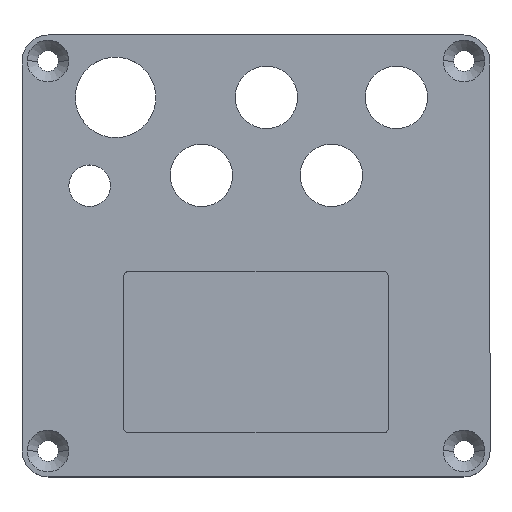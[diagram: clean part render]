
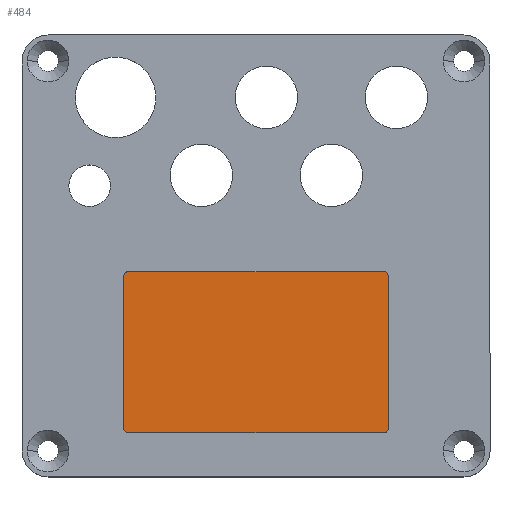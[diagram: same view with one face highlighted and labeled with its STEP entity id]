
A CAD part, top view. The second image highlights one B-rep face of the part: STEP entity #484.
In plain terms, the highlighted planar face has unit normal (0, 0, 1).
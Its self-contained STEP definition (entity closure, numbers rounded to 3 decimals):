
#5 = VERTEX_POINT ( 'NONE', #966 ) ;
#27 = VECTOR ( 'NONE', #773, 1000. ) ;
#39 = VERTEX_POINT ( 'NONE', #89 ) ;
#89 = CARTESIAN_POINT ( 'NONE',  ( 27.5, -36., -25. ) ) ;
#102 = ORIENTED_EDGE ( 'NONE', *, *, #569, .T. ) ;
#165 = CARTESIAN_POINT ( 'NONE',  ( -27.5, -1., -25. ) ) ;
#185 = AXIS2_PLACEMENT_3D ( 'NONE', #478, #856, #273 ) ;
#214 = EDGE_CURVE ( 'NONE', #495, #39, #1513, .T. ) ;
#233 = LINE ( 'NONE', #1587, #341 ) ;
#273 = DIRECTION ( 'NONE',  ( -1., 0., 0. ) ) ;
#276 = CARTESIAN_POINT ( 'NONE',  ( -27.5, 2., -25. ) ) ;
#312 = CARTESIAN_POINT ( 'NONE',  ( 27.5, 2., -25. ) ) ;
#341 = VECTOR ( 'NONE', #973, 1000. ) ;
#350 = ORIENTED_EDGE ( 'NONE', *, *, #214, .T. ) ;
#478 = CARTESIAN_POINT ( 'NONE',  ( 0., 0., -25. ) ) ;
#484 = ADVANCED_FACE ( 'NONE', ( #935 ), #1430, .F. ) ;
#495 = VERTEX_POINT ( 'NONE', #617 ) ;
#526 = CARTESIAN_POINT ( 'NONE',  ( 27.5, -36., -25. ) ) ;
#569 = EDGE_CURVE ( 'NONE', #5, #1577, #233, .T. ) ;
#617 = CARTESIAN_POINT ( 'NONE',  ( -27.5, -36., -25. ) ) ;
#769 = DIRECTION ( 'NONE',  ( 1., 0., 0. ) ) ;
#773 = DIRECTION ( 'NONE',  ( 0., 1., 0. ) ) ;
#856 = DIRECTION ( 'NONE',  ( 0., 0., -1. ) ) ;
#881 = EDGE_CURVE ( 'NONE', #5, #39, #1044, .T. ) ;
#935 = FACE_OUTER_BOUND ( 'NONE', #1341, .T. ) ;
#966 = CARTESIAN_POINT ( 'NONE',  ( 27.5, -1., -25. ) ) ;
#973 = DIRECTION ( 'NONE',  ( -1., 0., 0. ) ) ;
#1044 = LINE ( 'NONE', #312, #1355 ) ;
#1065 = ORIENTED_EDGE ( 'NONE', *, *, #881, .F. ) ;
#1117 = VECTOR ( 'NONE', #769, 1000. ) ;
#1341 = EDGE_LOOP ( 'NONE', ( #1542, #350, #1065, #102 ) ) ;
#1355 = VECTOR ( 'NONE', #1416, 1000. ) ;
#1391 = LINE ( 'NONE', #276, #27 ) ;
#1416 = DIRECTION ( 'NONE',  ( 0., -1., 0. ) ) ;
#1430 = PLANE ( 'NONE',  #185 ) ;
#1513 = LINE ( 'NONE', #526, #1117 ) ;
#1521 = EDGE_CURVE ( 'NONE', #495, #1577, #1391, .T. ) ;
#1542 = ORIENTED_EDGE ( 'NONE', *, *, #1521, .F. ) ;
#1577 = VERTEX_POINT ( 'NONE', #165 ) ;
#1587 = CARTESIAN_POINT ( 'NONE',  ( 27.5, -1., -25. ) ) ;
